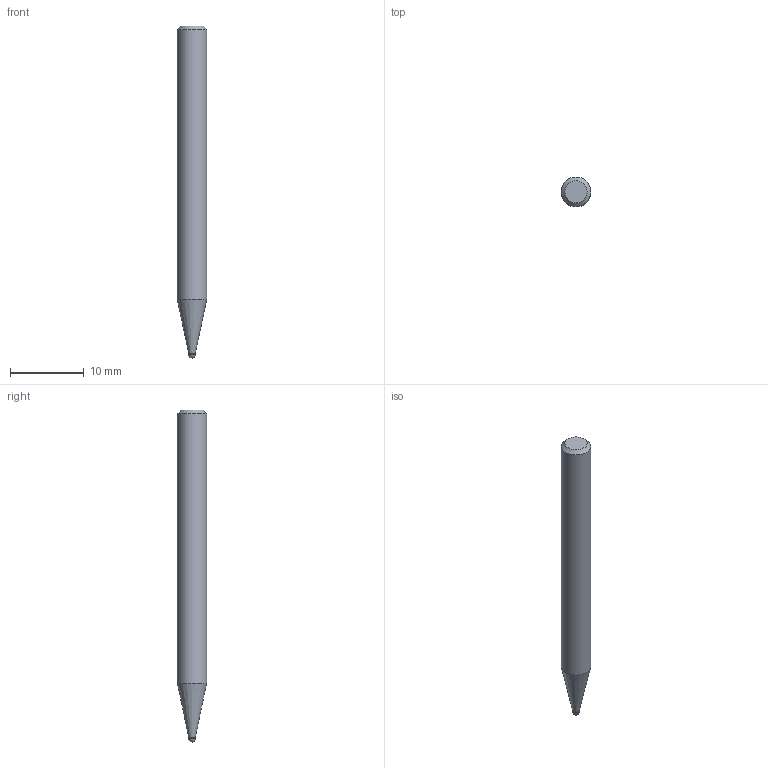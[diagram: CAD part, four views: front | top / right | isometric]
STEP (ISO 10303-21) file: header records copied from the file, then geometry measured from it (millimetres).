
FILE_DESCRIPTION((''),'2;1');
FILE_NAME('C:\Users\nsx150\AppData\Local\Temp\Mastercam 2021\ARV7HD45SN\TEMP.step','2023-06-13T16:35:03',(''),(''),'STEP Write','Mastercam 2021 ... CNC Software, Inc.','');
FILE_SCHEMA(('AUTOMOTIVE_DESIGN'));
Length unit declared in the file: millimetre
Products named in the file (1): None
Bounding box: 4 x 4 x 45 mm (x, y, z)
Volume: 503.5 mm3; surface area: 534.7 mm2
Topology: 2 solids, 2 shells, 8 faces, 12 edges, 7 vertices
Faces by surface type: plane 3, cylinder 2, cone 2, sphere 1
Full cylindrical faces by diameter (mm): 0.9 x1, 4 x1
Entity records: 190 total; most frequent: DIRECTION 32, CARTESIAN_POINT 22, AXIS2_PLACEMENT_3D 16, ORIENTED_EDGE 12, EDGE_LOOP 12, STYLED_ITEM 11, ADVANCED_FACE 8, VERTEX_POINT 6
